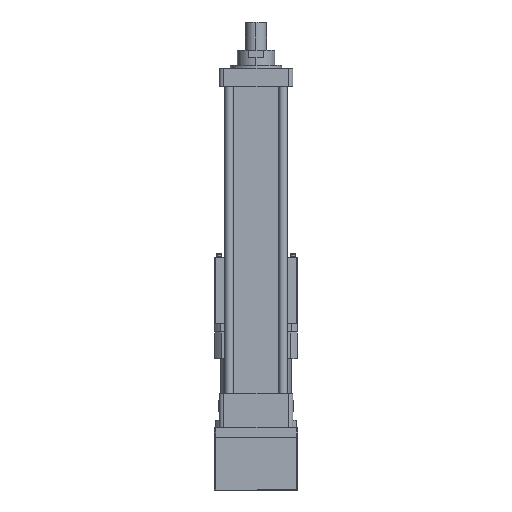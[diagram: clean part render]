
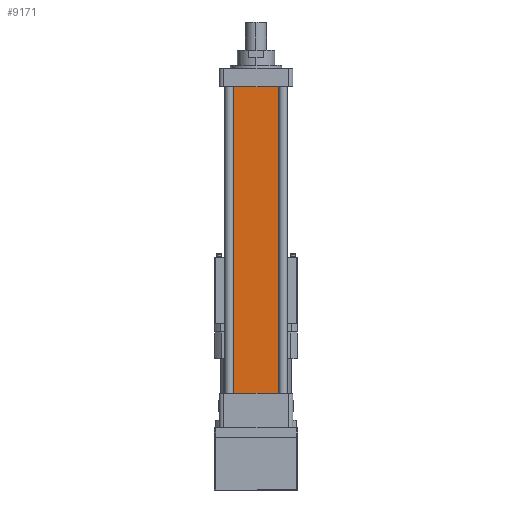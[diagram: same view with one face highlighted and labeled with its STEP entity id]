
A CAD part, front view. The second image highlights one B-rep face of the part: STEP entity #9171.
In plain terms, the highlighted planar face has unit normal (0, -1, 0).
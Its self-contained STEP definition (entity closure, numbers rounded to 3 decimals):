
#216 = PLANE ( 'NONE',  #10777 ) ;
#3506 = EDGE_CURVE ( 'NONE', #6900, #6466, #14153, .T. ) ;
#5721 = LINE ( 'NONE', #30542, #8562 ) ;
#6466 = VERTEX_POINT ( 'NONE', #36636 ) ;
#6900 = VERTEX_POINT ( 'NONE', #33510 ) ;
#8562 = VECTOR ( 'NONE', #24466, 1000. ) ;
#9171 = ADVANCED_FACE ( 'NONE', ( #9787 ), #216, .F. ) ;
#9787 = FACE_OUTER_BOUND ( 'NONE', #11290, .T. ) ;
#9999 = DIRECTION ( 'NONE',  ( 0., 1., 0. ) ) ;
#10155 = LINE ( 'NONE', #22584, #36544 ) ;
#10777 = AXIS2_PLACEMENT_3D ( 'NONE', #37883, #9999, #31360 ) ;
#11290 = EDGE_LOOP ( 'NONE', ( #38094, #23586, #16934, #20192 ) ) ;
#12609 = CARTESIAN_POINT ( 'NONE',  ( 3371.1, -11313.372, 656. ) ) ;
#13752 = CARTESIAN_POINT ( 'NONE',  ( 0., -11313.372, 0. ) ) ;
#14153 = LINE ( 'NONE', #13752, #21206 ) ;
#16934 = ORIENTED_EDGE ( 'NONE', *, *, #21767, .F. ) ;
#17186 = EDGE_CURVE ( 'NONE', #20396, #6466, #27647, .T. ) ;
#19519 = DIRECTION ( 'NONE',  ( 1., 0., 0. ) ) ;
#19700 = CARTESIAN_POINT ( 'NONE',  ( 3467.1, -11313.372, 656. ) ) ;
#20192 = ORIENTED_EDGE ( 'NONE', *, *, #3506, .T. ) ;
#20396 = VERTEX_POINT ( 'NONE', #19700 ) ;
#21206 = VECTOR ( 'NONE', #35938, 1000. ) ;
#21347 = DIRECTION ( 'NONE',  ( 0., 0., -1. ) ) ;
#21767 = EDGE_CURVE ( 'NONE', #6900, #34133, #5721, .T. ) ;
#22584 = CARTESIAN_POINT ( 'NONE',  ( 3371.1, -11313.372, 656. ) ) ;
#23586 = ORIENTED_EDGE ( 'NONE', *, *, #32564, .F. ) ;
#24466 = DIRECTION ( 'NONE',  ( 0., 0., 1. ) ) ;
#27647 = LINE ( 'NONE', #28234, #40148 ) ;
#28234 = CARTESIAN_POINT ( 'NONE',  ( 3467.1, -11313.372, 506. ) ) ;
#30542 = CARTESIAN_POINT ( 'NONE',  ( 3371.1, -11313.372, 506. ) ) ;
#31360 = DIRECTION ( 'NONE',  ( 0., 0., 1. ) ) ;
#32564 = EDGE_CURVE ( 'NONE', #34133, #20396, #10155, .T. ) ;
#33510 = CARTESIAN_POINT ( 'NONE',  ( 3371.1, -11313.372, 0. ) ) ;
#34133 = VERTEX_POINT ( 'NONE', #12609 ) ;
#35938 = DIRECTION ( 'NONE',  ( 1., 0., 0. ) ) ;
#36544 = VECTOR ( 'NONE', #19519, 1000. ) ;
#36636 = CARTESIAN_POINT ( 'NONE',  ( 3467.1, -11313.372, 0. ) ) ;
#37883 = CARTESIAN_POINT ( 'NONE',  ( 0., -11313.372, 506. ) ) ;
#38094 = ORIENTED_EDGE ( 'NONE', *, *, #17186, .F. ) ;
#40148 = VECTOR ( 'NONE', #21347, 1000. ) ;
